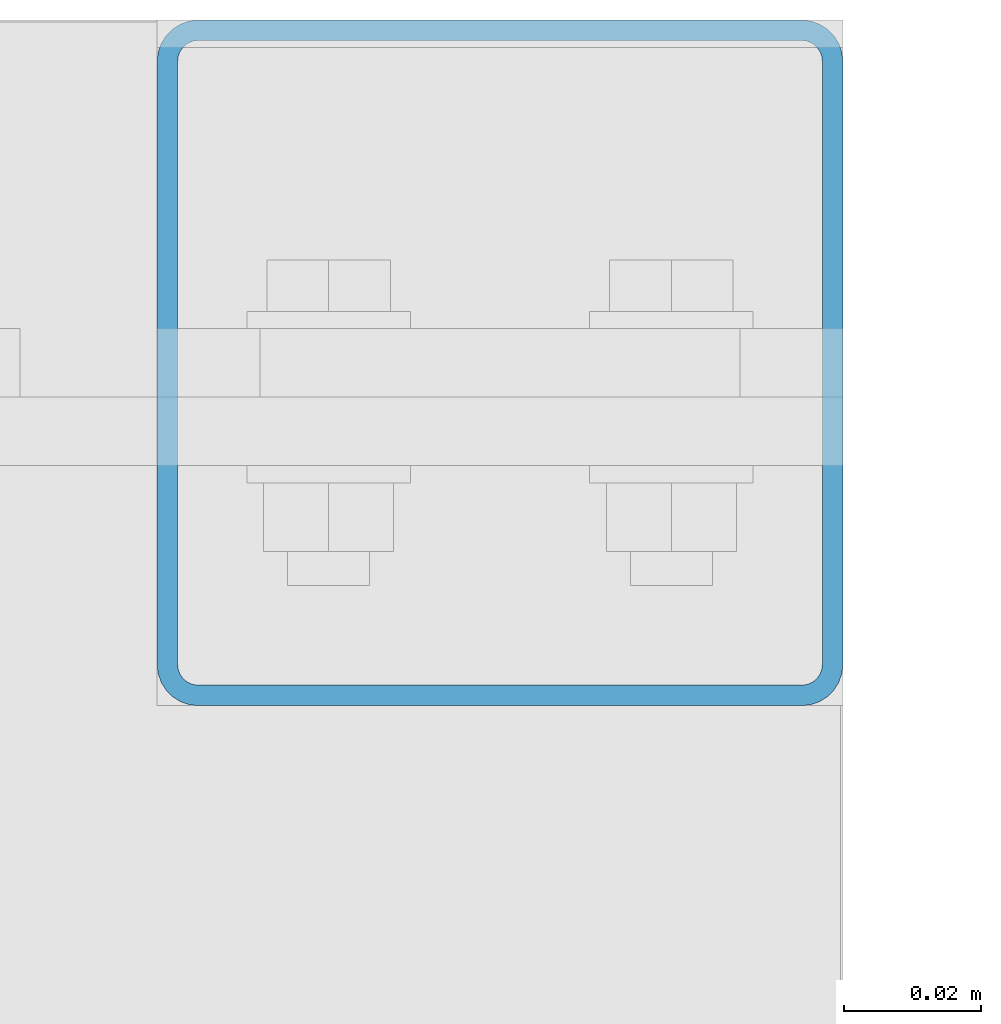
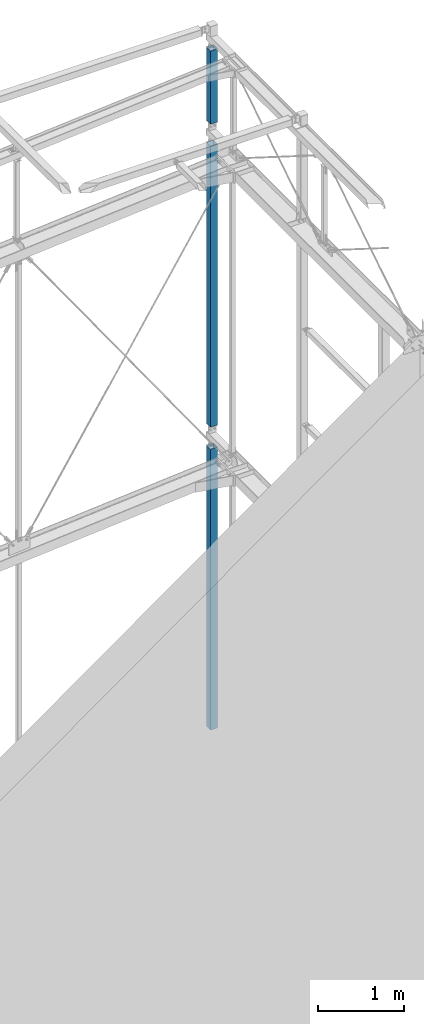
# One storey, part 58 of 271: 3 beams, 3 elements without a shape of their own.
"""IFC2X3 building model written with IfcOpenShell, lengths in millimetres."""

from ifc_helpers import new_model, si_unit, frame, origin_with_axes, origin_2d_with_axis, place, context, subcontext, project, spatial, hollow_rectangle, extrude, clip, halfspace, material, type_object, element, aggregate, save


model = new_model("IFC2X3")

# Units and contexts
model_context = context("Model", 3, precision=1e-05, world=origin_with_axes())
body_context = subcontext(model_context, "Body", "Model", "MODEL_VIEW")
ifc_project = project(units=[si_unit("LENGTHUNIT", "METRE", prefix="MILLI"), si_unit("AREAUNIT", "SQUARE_METRE"), si_unit("VOLUMEUNIT", "CUBIC_METRE"), si_unit("MASSUNIT", "GRAM", prefix="KILO"), si_unit("TIMEUNIT", "SECOND"), si_unit("PLANEANGLEUNIT", "RADIAN"), si_unit("SOLIDANGLEUNIT", "STERADIAN"), si_unit("THERMODYNAMICTEMPERATUREUNIT", "DEGREE_CELSIUS"), si_unit("LUMINOUSINTENSITYUNIT", "LUMEN")], contexts=[model_context])

# Site, building, storey
site_placement = place(None, origin_with_axes())
site = spatial("IfcSite", under=ifc_project, at=site_placement, Name="Undefined", CompositionType="ELEMENT")
building_placement = place(site_placement, origin_with_axes())
building = spatial("IfcBuilding", under=site, at=building_placement, Name="Undefined", CompositionType="ELEMENT")
storey_placement = place(building_placement, origin_with_axes())
storey = spatial("IfcBuildingStorey", under=building, at=storey_placement, Name="Undefined", CompositionType="ELEMENT", Elevation=0.0)

# Assembly, beam
assembly_1_placement = place(storey_placement, origin_with_axes())
assembly_1 = element("IfcElementAssembly", 1, at=assembly_1_placement, inside=storey, AssemblyPlace="NOTDEFINED", PredefinedType="RIGID_FRAME")
ifc_material = material(Name="STEEL/S355JR")
beam_type = type_object("IfcBeamType", Name="SHS100*3", PredefinedType="NOTDEFINED")
beam_1_placement = place(assembly_1_placement, frame((12658.3756870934, 4909.32498425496, 14324.3499999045), z_axis=(0.0, 1.0, 0.0), x_axis=(0.0, 0.0, -1.0)))
beam_1 = element("IfcBeam", 2, at=beam_1_placement, type_object=beam_type, material=ifc_material, Name="RYGIEL ATTYKOWY", ObjectType="SHS100*3", context=body_context, shape_type="Clipping", body=[
    clip(clip(extrude(hollow_rectangle(XDim=100.0, YDim=100.0, WallThickness=3.0, InnerFilletRadius=3.0, OuterFilletRadius=6.0, at=origin_2d_with_axis()), frame((4320.0, 0.0, 9.09494701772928e-13), z_axis=(-1.0, 0.0, 1.38777878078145e-17), x_axis=(0.0, -1.0, 0.0)), (0.0, 0.0, 1.0), 4320.0), halfspace(frame((4152.0, 0.0, -15.0), z_axis=(-1.0, 0.0, 1.38777878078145e-17), x_axis=(0.0, 1.0, 0.0)), True)), halfspace(frame((148.000000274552, 0.0, -15.0), z_axis=(1.0, 0.0, 0.0), x_axis=(0.0, -1.0, 0.0)), True)),
])
aggregate(assembly_1, [beam_1])

assembly_2_placement = place(storey_placement, origin_with_axes())
assembly_2 = element("IfcElementAssembly", 3, at=assembly_2_placement, inside=storey, AssemblyPlace="NOTDEFINED", PredefinedType="RIGID_FRAME")
beam_2_placement = place(assembly_2_placement, frame((12658.3756870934, 4909.32498425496, 18644.3499999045), z_axis=(0.0, 1.0, 0.0), x_axis=(0.0, 0.0, -1.0)))
beam_2 = element("IfcBeam", 4, at=beam_2_placement, type_object=beam_type, material=ifc_material, Name="RYGIEL ATTYKOWY", ObjectType="SHS100*3", context=body_context, shape_type="Clipping", body=[
    clip(clip(extrude(hollow_rectangle(XDim=100.0, YDim=100.0, WallThickness=3.0, InnerFilletRadius=3.0, OuterFilletRadius=6.0, at=origin_2d_with_axis()), frame((4320.0, 0.0, 9.09494701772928e-13), z_axis=(-1.0, 0.0, 1.38777878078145e-17), x_axis=(0.0, -1.0, 0.0)), (0.0, 0.0, 1.0), 4320.0), halfspace(frame((4152.0, 0.0, -15.0), z_axis=(-1.0, 0.0, 1.38777878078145e-17), x_axis=(0.0, 1.0, 0.0)), True)), halfspace(frame((148.000000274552, 0.0, -15.0), z_axis=(1.0, 0.0, 0.0), x_axis=(0.0, -1.0, 0.0)), True)),
])
aggregate(assembly_2, [beam_2])

assembly_3_placement = place(storey_placement, origin_with_axes())
assembly_3 = element("IfcElementAssembly", 5, at=assembly_3_placement, inside=storey, AssemblyPlace="NOTDEFINED", PredefinedType="RIGID_FRAME")
beam_3_placement = place(assembly_3_placement, frame((12658.3756870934, 4909.32498425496, 20004.3499999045), z_axis=(0.0, 1.0, 0.0), x_axis=(0.0, 0.0, -1.0)))
beam_3 = element("IfcBeam", 6, at=beam_3_placement, type_object=beam_type, material=ifc_material, Name="RYGIEL ATTYKOWY", ObjectType="SHS100*3", context=body_context, shape_type="Clipping", body=[
    clip(clip(extrude(hollow_rectangle(XDim=100.0, YDim=100.0, WallThickness=3.0, InnerFilletRadius=3.0, OuterFilletRadius=6.0, at=origin_2d_with_axis()), frame((1360.0, 0.0, 0.0), z_axis=(-1.0, 0.0, 1.38777878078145e-17), x_axis=(0.0, -1.0, 0.0)), (0.0, 0.0, 1.0), 1360.0), halfspace(frame((1192.0, 0.0, -15.0), z_axis=(-1.0, 0.0, 1.38777878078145e-17), x_axis=(0.0, 1.0, 0.0)), True)), halfspace(frame((148.000000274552, 0.0, -15.0), z_axis=(1.0, 0.0, 0.0), x_axis=(0.0, -1.0, 0.0)), True)),
])
aggregate(assembly_3, [beam_3])

save(model, "model.ifc")
